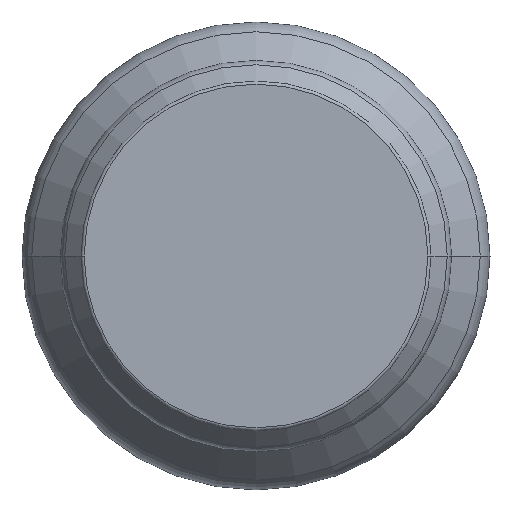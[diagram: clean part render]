
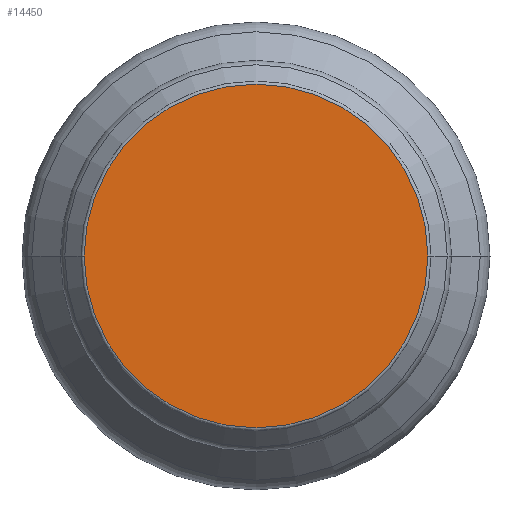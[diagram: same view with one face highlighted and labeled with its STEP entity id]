
A CAD part, front view. The second image highlights one B-rep face of the part: STEP entity #14450.
In plain terms, the highlighted planar face has unit normal (0, -1, 0).
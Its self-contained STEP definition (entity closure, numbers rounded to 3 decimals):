
#14110=CARTESIAN_POINT('',(-390.556,41.623,0.));
#14120=VERTEX_POINT('',#14110);
#14210=CARTESIAN_POINT('',(-418.056,41.623,0.));
#14220=VERTEX_POINT('',#14210);
#14250=CARTESIAN_POINT('',(-404.306,41.623,0.));
#14260=DIRECTION('',(0.,1.,0.));
#14270=DIRECTION('',(1.,0.,0.));
#14280=AXIS2_PLACEMENT_3D('',#14250,#14260,#14270);
#14290=CIRCLE('',#14280,13.75);
#14300=EDGE_CURVE('',#14120,#14220,#14290,.T.);
#14350=CARTESIAN_POINT('',(-416.555,41.623,
6.213));
#14360=DIRECTION('',(0.,-1.,0.));
#14370=DIRECTION('',(1.,0.,0.));
#14380=AXIS2_PLACEMENT_3D('',#14350,#14360,#14370);
#14390=PLANE('',#14380);
#14400=EDGE_CURVE('',#14220,#14120,#14290,.T.);
#14410=ORIENTED_EDGE('',*,*,#14400,.F.);
#14420=ORIENTED_EDGE('',*,*,#14300,.F.);
#14430=EDGE_LOOP('',(#14420,#14410));
#14440=FACE_OUTER_BOUND('',#14430,.T.);
#14450=ADVANCED_FACE('',(#14440),#14390,.T.);
